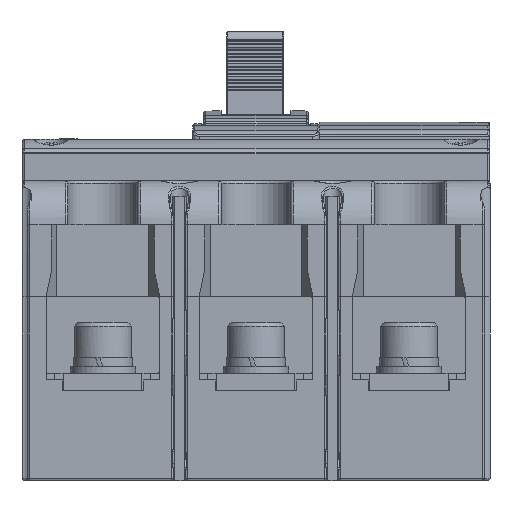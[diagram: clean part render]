
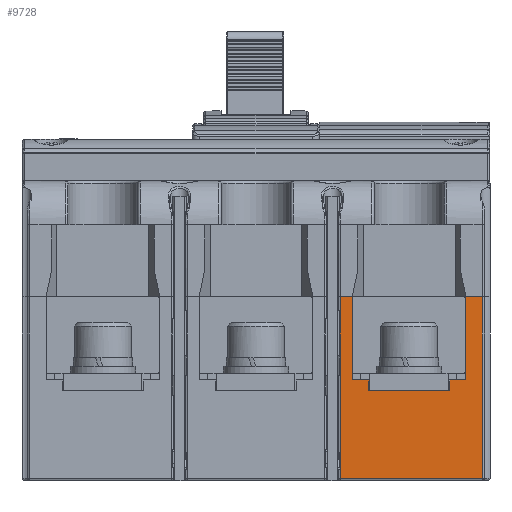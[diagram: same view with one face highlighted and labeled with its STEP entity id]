
A CAD part, front view. The second image highlights one B-rep face of the part: STEP entity #9728.
In plain terms, the highlighted planar face has unit normal (0, -1, 0) as drawn and (0, 0, 1) by its records, which use the part's own axes.
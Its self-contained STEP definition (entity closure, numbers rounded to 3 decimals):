
#4419 = ORIENTED_EDGE ( 'NONE', *, *, #10840, .F. ) ;
#4721 = VECTOR ( 'NONE', #72209, 1000. ) ;
#6756 = DIRECTION ( 'NONE',  ( -1., 0., 0. ) ) ;
#7044 = FACE_OUTER_BOUND ( 'NONE', #116442, .T. ) ;
#7367 = CARTESIAN_POINT ( 'NONE',  ( 51.75, 12.2, 85. ) ) ;
#9728 = ADVANCED_FACE ( 'NONE', ( #7044 ), #35787, .T. ) ;
#10707 = VERTEX_POINT ( 'NONE', #116017 ) ;
#10840 = EDGE_CURVE ( 'NONE', #69116, #94478, #87902, .T. ) ;
#11453 = CARTESIAN_POINT ( 'NONE',  ( 22., 12.2, 85. ) ) ;
#12286 = VECTOR ( 'NONE', #34999, 1000. ) ;
#12468 = VECTOR ( 'NONE', #112924, 1000. ) ;
#16032 = VECTOR ( 'NONE', #122564, 1000. ) ;
#17934 = VERTEX_POINT ( 'NONE', #30131 ) ;
#19180 = CARTESIAN_POINT ( 'NONE',  ( 48., -6.8, 85. ) ) ;
#20244 = VERTEX_POINT ( 'NONE', #56599 ) ;
#20736 = CARTESIAN_POINT ( 'NONE',  ( 51.75, -29.3, 85. ) ) ;
#21193 = CARTESIAN_POINT ( 'NONE',  ( 44.25, -6.8, 85. ) ) ;
#28800 = CARTESIAN_POINT ( 'NONE',  ( 22., -6.8, 85. ) ) ;
#29290 = LINE ( 'NONE', #67379, #100100 ) ;
#30131 = CARTESIAN_POINT ( 'NONE',  ( 44.25, -9.3, 85. ) ) ;
#30403 = EDGE_CURVE ( 'NONE', #101361, #10707, #101721, .T. ) ;
#30791 = VECTOR ( 'NONE', #78047, 1000. ) ;
#31022 = DIRECTION ( 'NONE',  ( -1., 0., 0. ) ) ;
#32245 = CARTESIAN_POINT ( 'NONE',  ( 48., -6.8, 85. ) ) ;
#34113 = CARTESIAN_POINT ( 'NONE',  ( 44.25, -9.3, 85. ) ) ;
#34999 = DIRECTION ( 'NONE',  ( 1., 0., 0. ) ) ;
#35787 = PLANE ( 'NONE',  #76177 ) ;
#37294 = LINE ( 'NONE', #19180, #12468 ) ;
#38124 = VERTEX_POINT ( 'NONE', #72110 ) ;
#38137 = CARTESIAN_POINT ( 'NONE',  ( 19.271, -29.3, 85. ) ) ;
#40409 = LINE ( 'NONE', #32245, #91459 ) ;
#41030 = DIRECTION ( 'NONE',  ( 0., -1., 0. ) ) ;
#42684 = EDGE_CURVE ( 'NONE', #38124, #17934, #61104, .T. ) ;
#43217 = CARTESIAN_POINT ( 'NONE',  ( 19.271, 12.2, 85. ) ) ;
#43750 = CARTESIAN_POINT ( 'NONE',  ( 19.271, -29.3, 85. ) ) ;
#44460 = DIRECTION ( 'NONE',  ( -1., 0., 0. ) ) ;
#44809 = VECTOR ( 'NONE', #41030, 1000. ) ;
#45679 = VECTOR ( 'NONE', #6756, 1000. ) ;
#46119 = LINE ( 'NONE', #69605, #67157 ) ;
#46660 = ORIENTED_EDGE ( 'NONE', *, *, #83128, .T. ) ;
#48111 = VECTOR ( 'NONE', #77679, 1000. ) ;
#49023 = VECTOR ( 'NONE', #44460, 1000. ) ;
#49394 = CARTESIAN_POINT ( 'NONE',  ( 25.75, -9.3, 85. ) ) ;
#52247 = CARTESIAN_POINT ( 'NONE',  ( 51.75, 12.2, 85. ) ) ;
#55746 = ORIENTED_EDGE ( 'NONE', *, *, #65495, .F. ) ;
#56338 = ORIENTED_EDGE ( 'NONE', *, *, #66684, .T. ) ;
#56599 = CARTESIAN_POINT ( 'NONE',  ( 48., -6.8, 85. ) ) ;
#61104 = LINE ( 'NONE', #21193, #30791 ) ;
#63605 = EDGE_CURVE ( 'NONE', #77075, #115903, #103181, .T. ) ;
#63979 = ORIENTED_EDGE ( 'NONE', *, *, #82305, .T. ) ;
#64516 = DIRECTION ( 'NONE',  ( 0., 0., 1. ) ) ;
#65495 = EDGE_CURVE ( 'NONE', #20244, #10707, #37294, .T. ) ;
#66300 = CARTESIAN_POINT ( 'NONE',  ( 22., -6.8, 85. ) ) ;
#66684 = EDGE_CURVE ( 'NONE', #79018, #110047, #73106, .T. ) ;
#67157 = VECTOR ( 'NONE', #84878, 1000. ) ;
#67379 = CARTESIAN_POINT ( 'NONE',  ( 19.271, 12.2, 85. ) ) ;
#69116 = VERTEX_POINT ( 'NONE', #71255 ) ;
#69605 = CARTESIAN_POINT ( 'NONE',  ( 51.75, -29.3, 85. ) ) ;
#71255 = CARTESIAN_POINT ( 'NONE',  ( 25.75, -6.8, 85. ) ) ;
#72110 = CARTESIAN_POINT ( 'NONE',  ( 44.25, -6.8, 85. ) ) ;
#72209 = DIRECTION ( 'NONE',  ( -1., 0., 0. ) ) ;
#73106 = LINE ( 'NONE', #43750, #12286 ) ;
#73688 = EDGE_CURVE ( 'NONE', #20244, #38124, #40409, .T. ) ;
#74432 = CARTESIAN_POINT ( 'NONE',  ( 25.75, -6.8, 85. ) ) ;
#76177 = AXIS2_PLACEMENT_3D ( 'NONE', #122638, #64516, #93282 ) ;
#77075 = VERTEX_POINT ( 'NONE', #28800 ) ;
#77679 = DIRECTION ( 'NONE',  ( -1., 0., 0. ) ) ;
#78047 = DIRECTION ( 'NONE',  ( 0., -1., 0. ) ) ;
#79018 = VERTEX_POINT ( 'NONE', #38137 ) ;
#81738 = CARTESIAN_POINT ( 'NONE',  ( 22., 12.2, 85. ) ) ;
#81943 = LINE ( 'NONE', #74432, #49023 ) ;
#82305 = EDGE_CURVE ( 'NONE', #115903, #100087, #116402, .T. ) ;
#83128 = EDGE_CURVE ( 'NONE', #100087, #79018, #29290, .T. ) ;
#84878 = DIRECTION ( 'NONE',  ( 0., 1., 0. ) ) ;
#87902 = LINE ( 'NONE', #97891, #44809 ) ;
#88271 = ORIENTED_EDGE ( 'NONE', *, *, #42684, .T. ) ;
#89859 = ORIENTED_EDGE ( 'NONE', *, *, #90177, .T. ) ;
#90177 = EDGE_CURVE ( 'NONE', #110047, #101361, #46119, .T. ) ;
#91459 = VECTOR ( 'NONE', #31022, 1000. ) ;
#93282 = DIRECTION ( 'NONE',  ( 1., 0., 0. ) ) ;
#94478 = VERTEX_POINT ( 'NONE', #49394 ) ;
#96656 = ORIENTED_EDGE ( 'NONE', *, *, #73688, .T. ) ;
#97891 = CARTESIAN_POINT ( 'NONE',  ( 25.75, -6.8, 85. ) ) ;
#98567 = ORIENTED_EDGE ( 'NONE', *, *, #30403, .T. ) ;
#100087 = VERTEX_POINT ( 'NONE', #43217 ) ;
#100100 = VECTOR ( 'NONE', #106747, 1000. ) ;
#101361 = VERTEX_POINT ( 'NONE', #52247 ) ;
#101721 = LINE ( 'NONE', #7367, #45679 ) ;
#102623 = ORIENTED_EDGE ( 'NONE', *, *, #120802, .T. ) ;
#103181 = LINE ( 'NONE', #66300, #16032 ) ;
#106747 = DIRECTION ( 'NONE',  ( 0., -1., 0. ) ) ;
#106878 = ORIENTED_EDGE ( 'NONE', *, *, #63605, .T. ) ;
#107425 = LINE ( 'NONE', #34113, #4721 ) ;
#110047 = VERTEX_POINT ( 'NONE', #20736 ) ;
#112924 = DIRECTION ( 'NONE',  ( 0., 1., 0. ) ) ;
#115903 = VERTEX_POINT ( 'NONE', #81738 ) ;
#116017 = CARTESIAN_POINT ( 'NONE',  ( 48., 12.2, 85. ) ) ;
#116402 = LINE ( 'NONE', #11453, #48111 ) ;
#116442 = EDGE_LOOP ( 'NONE', ( #89859, #98567, #55746, #96656, #88271, #102623, #4419, #117583, #106878, #63979, #46660, #56338 ) ) ;
#117583 = ORIENTED_EDGE ( 'NONE', *, *, #122973, .T. ) ;
#120802 = EDGE_CURVE ( 'NONE', #17934, #94478, #107425, .T. ) ;
#122564 = DIRECTION ( 'NONE',  ( 0., 1., 0. ) ) ;
#122638 = CARTESIAN_POINT ( 'NONE',  ( -53.5, -29.8, 85. ) ) ;
#122973 = EDGE_CURVE ( 'NONE', #69116, #77075, #81943, .T. ) ;
